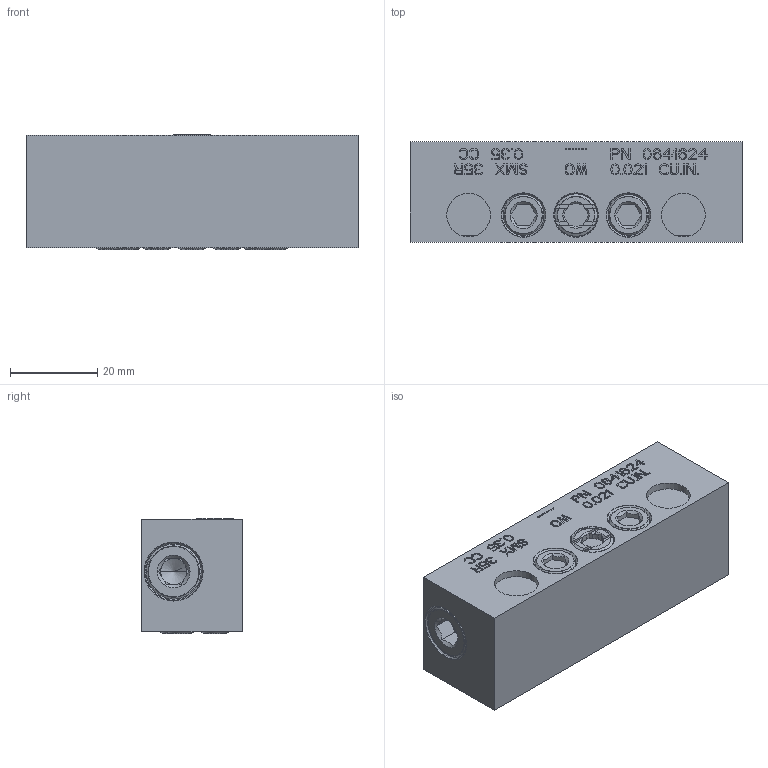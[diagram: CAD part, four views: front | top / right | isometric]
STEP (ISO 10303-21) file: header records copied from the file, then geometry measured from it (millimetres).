
FILE_DESCRIPTION((''),'2;1');
FILE_NAME('0641624_SMX_35R','2023-07-21T12:27:40',('pietro.masciave'),(''),'CREO PARAMETRIC BY PTC INC, 2022281','CREO PARAMETRIC BY PTC INC, 2022281','');
FILE_SCHEMA(('CONFIG_CONTROL_DESIGN'));
Length unit declared in the file: millimetre
Products named in the file (1): 0641624_SMX_35R
Bounding box: 76 x 23 x 26.33 mm (x, y, z)
Volume: 44007 mm3; surface area: 12655.9 mm2
Topology: 1 solids, 14 shells, 1333 faces, 3689 edges, 2451 vertices
Faces by surface type: plane 1157, cylinder 110, cone 44, torus 22
Entity records: 43033 total; most frequent: CARTESIAN_POINT 8711, ORIENTED_EDGE 7330, DIRECTION 6638, EDGE_CURVE 3685, VECTOR 3250, LINE 3250, VERTEX_POINT 2451, AXIS2_PLACEMENT_3D 1694
